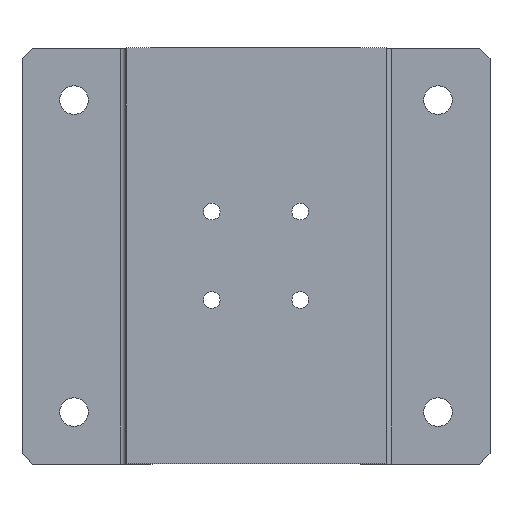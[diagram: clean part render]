
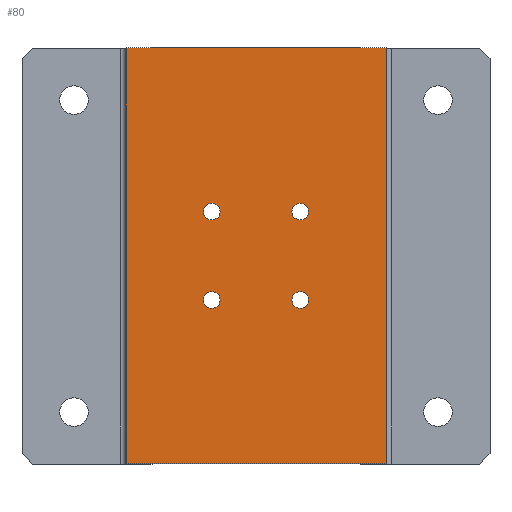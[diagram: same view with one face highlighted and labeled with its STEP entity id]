
A CAD part, top view. The second image highlights one B-rep face of the part: STEP entity #80.
In plain terms, the highlighted planar face has unit normal (0, 0, 1).
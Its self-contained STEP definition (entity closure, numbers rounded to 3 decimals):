
#80=ADVANCED_FACE('',(#252,#253,#254,#255,#256),#110,.T.);
#110=PLANE('',#745);
#141=LINE('',#1049,#193);
#145=LINE('',#1058,#197);
#148=LINE('',#1065,#200);
#161=LINE('',#1100,#213);
#193=VECTOR('',#850,1.);
#197=VECTOR('',#856,1.);
#200=VECTOR('',#863,1.);
#213=VECTOR('',#892,1.);
#252=FACE_BOUND('',#310,.T.);
#253=FACE_BOUND('',#311,.T.);
#254=FACE_BOUND('',#312,.T.);
#255=FACE_BOUND('',#313,.T.);
#256=FACE_BOUND('',#314,.T.);
#310=EDGE_LOOP('',(#426));
#311=EDGE_LOOP('',(#427));
#312=EDGE_LOOP('',(#428));
#313=EDGE_LOOP('',(#429));
#314=EDGE_LOOP('',(#430,#431,#432,#433));
#426=ORIENTED_EDGE('',*,*,#616,.F.);
#427=ORIENTED_EDGE('',*,*,#614,.F.);
#428=ORIENTED_EDGE('',*,*,#612,.F.);
#429=ORIENTED_EDGE('',*,*,#610,.F.);
#430=ORIENTED_EDGE('',*,*,#621,.T.);
#431=ORIENTED_EDGE('',*,*,#629,.T.);
#432=ORIENTED_EDGE('',*,*,#625,.T.);
#433=ORIENTED_EDGE('',*,*,#649,.T.);
#546=VERTEX_POINT('',#1023);
#548=VERTEX_POINT('',#1028);
#550=VERTEX_POINT('',#1033);
#552=VERTEX_POINT('',#1038);
#554=VERTEX_POINT('',#1043);
#557=VERTEX_POINT('',#1048);
#558=VERTEX_POINT('',#1052);
#561=VERTEX_POINT('',#1057);
#610=EDGE_CURVE('',#546,#546,#682,.T.);
#612=EDGE_CURVE('',#548,#548,#684,.T.);
#614=EDGE_CURVE('',#550,#550,#686,.T.);
#616=EDGE_CURVE('',#552,#552,#688,.T.);
#621=EDGE_CURVE('',#554,#557,#141,.T.);
#625=EDGE_CURVE('',#558,#561,#145,.T.);
#629=EDGE_CURVE('',#557,#558,#148,.T.);
#649=EDGE_CURVE('',#561,#554,#161,.T.);
#682=CIRCLE('',#721,1.6);
#684=CIRCLE('',#724,1.6);
#686=CIRCLE('',#727,1.6);
#688=CIRCLE('',#730,1.6);
#721=AXIS2_PLACEMENT_3D('',#1022,#823,#824);
#724=AXIS2_PLACEMENT_3D('',#1027,#829,#830);
#727=AXIS2_PLACEMENT_3D('',#1032,#835,#836);
#730=AXIS2_PLACEMENT_3D('',#1037,#841,#842);
#745=AXIS2_PLACEMENT_3D('',#1102,#895,#896);
#823=DIRECTION('',(0.,0.,1.));
#824=DIRECTION('',(1.,0.,0.));
#829=DIRECTION('',(0.,0.,1.));
#830=DIRECTION('',(1.,0.,0.));
#835=DIRECTION('',(0.,0.,1.));
#836=DIRECTION('',(1.,0.,0.));
#841=DIRECTION('',(0.,0.,1.));
#842=DIRECTION('',(1.,0.,0.));
#850=DIRECTION('',(0.,-1.,0.));
#856=DIRECTION('',(0.,1.,0.));
#863=DIRECTION('',(1.,0.,0.));
#892=DIRECTION('',(-1.,0.,0.));
#895=DIRECTION('',(0.,0.,1.));
#896=DIRECTION('',(1.,0.,0.));
#1022=CARTESIAN_POINT('',(33.5,16.5,30.));
#1023=CARTESIAN_POINT('',(35.1,16.5,30.));
#1027=CARTESIAN_POINT('',(16.5,16.5,30.));
#1028=CARTESIAN_POINT('',(18.1,16.5,30.));
#1032=CARTESIAN_POINT('',(16.5,33.5,30.));
#1033=CARTESIAN_POINT('',(18.1,33.5,30.));
#1037=CARTESIAN_POINT('',(33.5,33.5,30.));
#1038=CARTESIAN_POINT('',(35.1,33.5,30.));
#1043=CARTESIAN_POINT('',(0.,65.,30.));
#1048=CARTESIAN_POINT('',(0.,-15.,30.));
#1049=CARTESIAN_POINT('',(0.,50.,30.));
#1052=CARTESIAN_POINT('',(50.,-15.,30.));
#1057=CARTESIAN_POINT('',(50.,65.,30.));
#1058=CARTESIAN_POINT('',(50.,0.,30.));
#1065=CARTESIAN_POINT('',(0.,-15.,30.));
#1100=CARTESIAN_POINT('',(50.,65.,30.));
#1102=CARTESIAN_POINT('',(0.,0.,30.));
